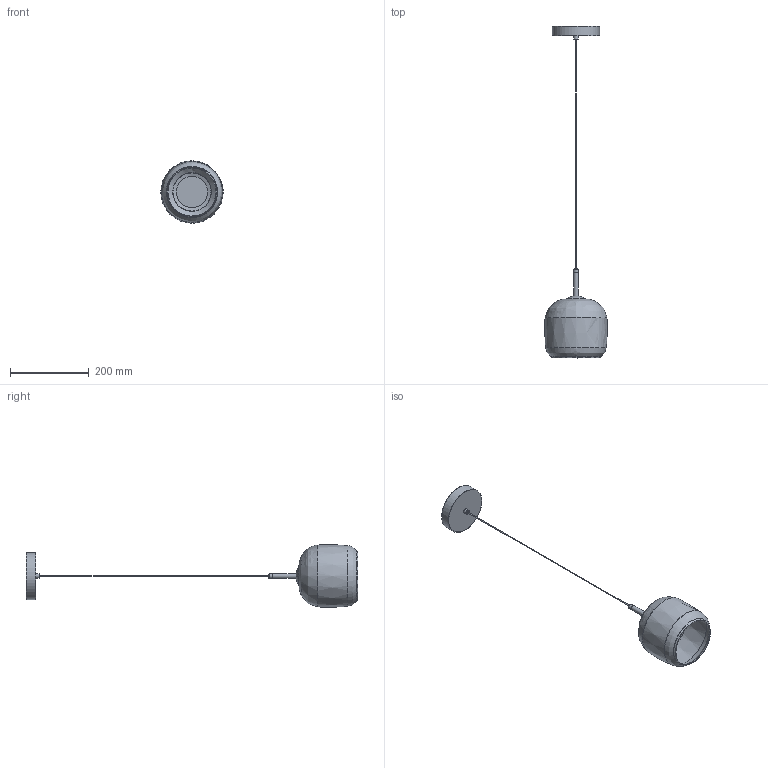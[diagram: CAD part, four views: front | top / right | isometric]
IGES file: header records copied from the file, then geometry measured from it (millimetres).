
Global section: file name: Danoise Pendant Lamp; native system: AutoCAD 2022 - 简体中文 (Simplified Chinese),62HAuto; preprocessor: desk Translation Framework DWG producer (atf_dwg_producer); organization: unknown; date: 20241024.150116; units: millimetre
Bounding box: 159.8 x 844.93 x 159.81 mm (x, y, z)
Volume: 319994.7 mm3; surface area: 243717.6 mm2
Topology: 9 solids, 9 shells, 42 faces, 90 edges, 66 vertices
Faces by surface type: bspline 41, revolution 1
